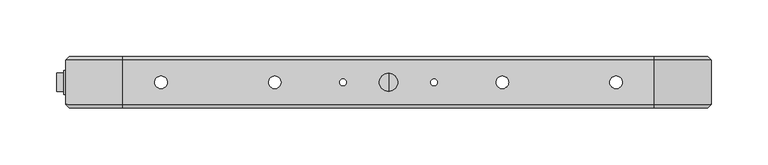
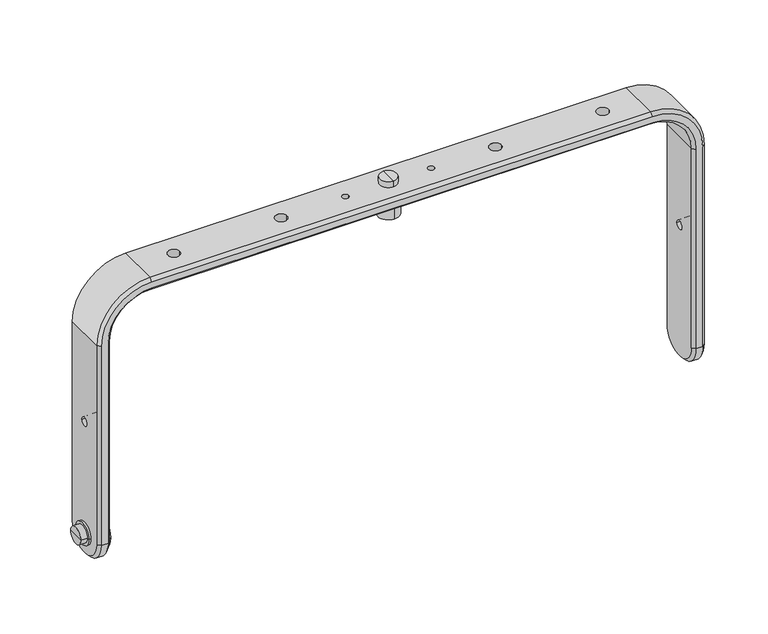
"""IFC4 building model written with IfcOpenShell, lengths in millimetres: proxy geometry, ePS10-WM330-HBRK535-WHM : ePS10-WM330-HBRK535-WHM."""

from ifc_helpers import new_model, si_unit, point, frame, origin, place, context, project, spatial, polyline, circle_curve, ellipse_curve, trimmed, source, transform, mapped, element, save
from ifc_brep_helpers import plane_surface, cylinder_surface, revolved_surface, advanced_brep


def generic_models_aa8a75bb(model_context):
    return source(origin(), model_context, "Body", "AdvancedBrep", [
        advanced_brep(
        [(-271.5, -306.057585, -246.5012591), (-271.5, -342.942415, -246.5012591), (-271.5, -328.5553577, -246.5012591), (-271.5, -320.4446423, -246.5012591), (-268.5, -309.057585, -246.5012591), (-268.5, -339.942415, -246.5012591), (-268.5, -320.4446423, -246.5012591), (-268.5, -328.5553577, -246.5012591), (-265.5, -320.4446423, -246.5012591), (-265.5, -328.5553577, -246.5012591), (-265.5, -324.5, -246.5012591), (-291.5, -316.4249697, -246.5012591), (-291.5, -332.5750303, -246.5012591), (-291.5, -324.5, -246.5012591), (-285.5, -316.4249697, -246.5012591), (-285.5, -332.5750303, -246.5012591), (-285.5, -313.944078, -246.5012591), (-285.5, -335.055922, -246.5012591), (-283.5, -313.944078, -246.5012591), (-283.5, -335.055922, -246.5012591), (-283.5, -320.4446423, -246.5012591), (-283.5, -328.5553577, -246.5012591)],
        [
            (0, 1, circle_curve(frame((-271.5, -324.5, -246.5012591), z_axis=(-1.0, 0.0, 0.0), x_axis=(0.0, -1.0, 0.0)), 18.442415)),
            (1, 2),
            (2, 3, circle_curve(frame((-271.5, -324.5, -246.5012591), z_axis=(1.0, 0.0, 0.0), x_axis=(0.0, -1.0, 0.0)), 4.0553577)),
            (3, 0),
            (1, 0, circle_curve(frame((-271.5, -324.5, -246.5012591), z_axis=(-1.0, 0.0, 0.0), x_axis=(0.0, -1.0, 0.0)), 18.442415)),
            (3, 2, circle_curve(frame((-271.5, -324.5, -246.5012591), z_axis=(1.0, 0.0, 0.0), x_axis=(0.0, -1.0, 0.0)), 4.0553577)),
            (4, 5, circle_curve(frame((-268.5, -324.5, -246.5012591), z_axis=(-1.0, 0.0, 0.0), x_axis=(0.0, -1.0, 0.0)), 15.442415)),
            (5, 1, circle_curve(frame((-271.5, -339.942415, -246.5012591), z_axis=(0.0, 0.0, -1.0), x_axis=(1.0, 0.0, 0.0)), 3.0)),
            (0, 4, circle_curve(frame((-271.5, -309.057585, -246.5012591), z_axis=(0.0, 0.0, -1.0), x_axis=(1.0, 0.0, 0.0)), 3.0)),
            (5, 4, circle_curve(frame((-268.5, -324.5, -246.5012591), z_axis=(-1.0, 0.0, 0.0), x_axis=(0.0, -1.0, 0.0)), 15.442415)),
            (6, 7, circle_curve(frame((-268.5, -324.5, -246.5012591), z_axis=(-1.0, 0.0, 0.0), x_axis=(0.0, -1.0, 0.0)), 4.0553577)),
            (7, 5),
            (4, 6),
            (7, 6, circle_curve(frame((-268.5, -324.5, -246.5012591), z_axis=(-1.0, 0.0, 0.0), x_axis=(0.0, -1.0, 0.0)), 4.0553577)),
            (8, 9, circle_curve(frame((-265.5, -324.5, -246.5012591), z_axis=(-1.0, 0.0, 0.0), x_axis=(0.0, -1.0, 0.0)), 4.0553577)),
            (9, 7),
            (6, 8),
            (9, 8, circle_curve(frame((-265.5, -324.5, -246.5012591), z_axis=(-1.0, 0.0, 0.0), x_axis=(0.0, -1.0, 0.0)), 4.0553577)),
            (10, 9),
            (8, 10),
            (11, 12, circle_curve(frame((-291.5, -324.5, -246.5012591), z_axis=(-1.0, 0.0, 0.0), x_axis=(0.0, -1.0, 0.0)), 8.0750303)),
            (12, 13),
            (13, 11),
            (12, 11, circle_curve(frame((-291.5, -324.5, -246.5012591), z_axis=(-1.0, 0.0, 0.0), x_axis=(0.0, -1.0, 0.0)), 8.0750303)),
            (14, 15, circle_curve(frame((-285.5, -324.5, -246.5012591), z_axis=(-1.0, 0.0, 0.0), x_axis=(0.0, -1.0, 0.0)), 8.0750303)),
            (15, 12),
            (11, 14),
            (15, 14, circle_curve(frame((-285.5, -324.5, -246.5012591), z_axis=(-1.0, 0.0, 0.0), x_axis=(0.0, -1.0, 0.0)), 8.0750303)),
            (16, 17, circle_curve(frame((-285.5, -324.5, -246.5012591), z_axis=(-1.0, 0.0, 0.0), x_axis=(0.0, -1.0, 0.0)), 10.555922)),
            (17, 15),
            (14, 16),
            (17, 16, circle_curve(frame((-285.5, -324.5, -246.5012591), z_axis=(-1.0, 0.0, 0.0), x_axis=(0.0, -1.0, 0.0)), 10.555922)),
            (18, 19, circle_curve(frame((-283.5, -324.5, -246.5012591), z_axis=(-1.0, 0.0, 0.0), x_axis=(0.0, -1.0, 0.0)), 10.555922)),
            (19, 17),
            (16, 18),
            (19, 18, circle_curve(frame((-283.5, -324.5, -246.5012591), z_axis=(-1.0, 0.0, 0.0), x_axis=(0.0, -1.0, 0.0)), 10.555922)),
            (20, 21, circle_curve(frame((-283.5, -324.5, -246.5012591), z_axis=(-1.0, 0.0, 0.0), x_axis=(0.0, -1.0, 0.0)), 4.0553577)),
            (21, 19),
            (18, 20),
            (21, 20, circle_curve(frame((-283.5, -324.5, -246.5012591), z_axis=(-1.0, 0.0, 0.0), x_axis=(0.0, -1.0, 0.0)), 4.0553577)),
            (2, 21),
            (20, 3),
        ],
        [
            plane_surface(frame((-271.5, -324.5, -246.5012591), z_axis=(-1.0, 0.0, 0.0), x_axis=(0.0, -1.0, 0.0))),
            revolved_surface(trimmed(ellipse_curve(frame((-271.5, -339.942415, -246.5012591), z_axis=(0.0, 0.0, 1.0), x_axis=(1.0, 0.0, 0.0)), 3.0, 3.0), [point((-271.5, -342.942415, -246.5012591))], [point((-268.5, -339.942415, -246.5012591))], True, "CARTESIAN"), (-258.7578639, -324.5, -246.5012591), (1.0, 0.0, 0.0)),
            plane_surface(frame((-268.5, -324.5, -246.5012591), z_axis=(1.0, 0.0, 0.0), x_axis=(0.0, -1.0, 0.0))),
            cylinder_surface(frame((-258.7578639, -324.5, -246.5012591), z_axis=(1.0, 0.0, 0.0), x_axis=(0.0, -1.0, 0.0)), 4.0553577),
            plane_surface(frame((-265.5, -324.5, -246.5012591), z_axis=(1.0, 0.0, 0.0), x_axis=(0.0, -1.0, 0.0))),
            plane_surface(frame((-291.5, -324.5, -246.5012591), z_axis=(-1.0, 0.0, 0.0), x_axis=(0.0, -1.0, 0.0))),
            cylinder_surface(frame((-258.7578639, -324.5, -246.5012591), z_axis=(1.0, 0.0, 0.0), x_axis=(0.0, -1.0, 0.0)), 8.0750303),
            plane_surface(frame((-285.5, -324.5, -246.5012591), z_axis=(-1.0, 0.0, 0.0), x_axis=(0.0, -1.0, 0.0))),
            cylinder_surface(frame((-258.7578639, -324.5, -246.5012591), z_axis=(1.0, 0.0, 0.0), x_axis=(0.0, -1.0, 0.0)), 10.555922),
            plane_surface(frame((-283.5, -324.5, -246.5012591), z_axis=(1.0, 0.0, 0.0), x_axis=(0.0, -1.0, 0.0))),
        ],
        [
            (0, [[1, 2, 3, 4]]),
            (0, [[5, -4, 6, -2]]),
            (1, [[7, 8, -1, 9]]),
            (1, [[10, -9, -5, -8]]),
            (2, [[11, 12, -7, 13]]),
            (2, [[14, -13, -10, -12]]),
            (3, [[15, 16, -11, 17]]),
            (3, [[18, -17, -14, -16]]),
            (4, [[19, -15, 20]]),
            (4, [[-20, -18, -19]]),
            (5, [[21, 22, 23]]),
            (5, [[24, -23, -22]]),
            (6, [[25, 26, -21, 27]]),
            (6, [[28, -27, -24, -26]]),
            (7, [[29, 30, -25, 31]]),
            (7, [[32, -31, -28, -30]]),
            (8, [[33, 34, -29, 35]]),
            (8, [[36, -35, -32, -34]]),
            (9, [[37, 38, -33, 39]]),
            (9, [[40, -39, -36, -38]]),
            (3, [[-3, 41, -37, 42]]),
            (3, [[-6, -42, -40, -41]]),
        ],
    ),
        advanced_brep(
        [(283.5, -304.9281655, -246.5012591), (283.5, -304.9281655, -50.0), (283.5, -344.0718345, -50.0), (283.5, -344.0718345, -246.5012591), (283.5, -320.5, -137.0012591), (283.5, -328.5, -137.0012591), (280.5, -347.0718345, -50.0), (280.5, -347.0718345, -246.5012591), (233.5, -347.0718345, -3.0), (-233.5, -347.0718345, -3.0), (-280.5, -347.0718345, -50.0), (-280.5, -347.0718345, -246.5012591), (-274.5, -347.0718345, -246.5012591), (-274.5, -347.0718345, -50.0), (-233.5, -347.0718345, -9.0), (233.5, -347.0718345, -9.0), (274.5, -347.0718345, -50.0), (274.5, -347.0718345, -246.5012591), (271.5, -344.0718345, -50.0), (271.5, -344.0718345, -246.5012591), (271.5, -304.9281655, -50.0), (271.5, -304.9281655, -246.5012591), (271.5, -328.5, -137.0012591), (271.5, -320.5, -137.0012591), (233.5, -304.9281655, 0.0), (233.5, -344.0718345, 0.0), (233.5, -344.0718345, -12.0), (233.5, -304.9281655, -12.0), (-233.5, -304.9281655, 0.0), (-233.5, -344.0718345, 0.0), (5.5, -324.5, 0.0), (-5.5, -324.5, 0.0), (-194.5, -324.5, 0.0), (-205.5, -324.5, 0.0), (-37.0, -324.5, 0.0), (-43.0, -324.5, 0.0), (-94.5, -324.5, 0.0), (-105.5, -324.5, 0.0), (194.5, -324.5, 0.0), (205.5, -324.5, 0.0), (37.0, -324.5, 0.0), (43.0, -324.5, 0.0), (94.5, -324.5, 0.0), (105.5, -324.5, 0.0), (-233.5, -344.0718345, -12.0), (-233.5, -304.9281655, -12.0), (-5.5, -324.5, -12.0), (5.5, -324.5, -12.0), (-205.5, -324.5, -12.0), (-194.5, -324.5, -12.0), (-43.0, -324.5, -12.0), (-37.0, -324.5, -12.0), (-105.5, -324.5, -12.0), (-94.5, -324.5, -12.0), (205.5, -324.5, -12.0), (194.5, -324.5, -12.0), (43.0, -324.5, -12.0), (37.0, -324.5, -12.0), (105.5, -324.5, -12.0), (94.5, -324.5, -12.0), (-283.5, -304.9281655, -50.0), (-283.5, -344.0718345, -50.0), (-271.5, -344.0718345, -50.0), (-271.5, -304.9281655, -50.0), (-283.5, -304.9281655, -246.5012591), (-283.5, -344.0718345, -246.5012591), (-283.5, -328.5, -137.0012591), (-283.5, -320.5, -137.0012591), (-271.5, -344.0718345, -246.5012591), (-271.5, -304.9281655, -246.5012591), (-271.5, -320.5, -137.0012591), (-271.5, -328.5, -137.0012591), (274.5, -301.9281655, -50.0), (274.5, -301.9281655, -246.5012591), (233.5, -301.9281655, -9.0), (-233.5, -301.9281655, -9.0), (-274.5, -301.9281655, -50.0), (-274.5, -301.9281655, -246.5012591), (-280.5, -301.9281655, -246.5012591), (-280.5, -301.9281655, -50.0), (-233.5, -301.9281655, -3.0), (233.5, -301.9281655, -3.0), (280.5, -301.9281655, -50.0), (280.5, -301.9281655, -246.5012591)],
        [
            (0, 1),
            (1, 2),
            (2, 3),
            (3, 0, circle_curve(frame((283.5, -324.5, -246.5012591), z_axis=(1.0, 0.0, 0.0), x_axis=(0.0, -1.0, 0.0)), 19.5718345)),
            (4, 5, circle_curve(frame((283.5, -324.5, -137.0012591), z_axis=(-1.0, 0.0, 0.0), x_axis=(0.0, 1.0, 0.0)), 4.0)),
            (5, 4, circle_curve(frame((283.5, -324.5, -137.0012591), z_axis=(-1.0, 0.0, 0.0), x_axis=(0.0, 1.0, 0.0)), 4.0)),
            (2, 6),
            (6, 7),
            (7, 3),
            (6, 8, circle_curve(frame((233.5, -347.0718345, -50.0), z_axis=(0.0, -1.0, 0.0), x_axis=(1.0, 0.0, 0.0)), 47.0)),
            (8, 9),
            (9, 10, circle_curve(frame((-233.5, -347.0718345, -50.0), z_axis=(0.0, -1.0, 0.0), x_axis=(0.0, 0.0, 1.0)), 47.0)),
            (10, 11),
            (11, 12),
            (12, 13),
            (13, 14, circle_curve(frame((-233.5, -347.0718345, -50.0), z_axis=(0.0, 1.0, 0.0), x_axis=(0.0, 0.0, 1.0)), 41.0)),
            (14, 15),
            (15, 16, circle_curve(frame((233.5, -347.0718345, -50.0), z_axis=(0.0, 1.0, 0.0), x_axis=(1.0, 0.0, 0.0)), 41.0)),
            (16, 17),
            (17, 7),
            (16, 18),
            (18, 19),
            (19, 17),
            (18, 20),
            (20, 21),
            (21, 19, circle_curve(frame((271.5, -324.5, -246.5012591), z_axis=(-1.0, 0.0, 0.0), x_axis=(0.0, -1.0, 0.0)), 19.5718345)),
            (22, 23, circle_curve(frame((271.5, -324.5, -137.0012591), z_axis=(1.0, 0.0, 0.0), x_axis=(0.0, 1.0, 0.0)), 4.0)),
            (23, 22, circle_curve(frame((271.5, -324.5, -137.0012591), z_axis=(1.0, 0.0, 0.0), x_axis=(0.0, 1.0, 0.0)), 4.0)),
            (1, 24, circle_curve(frame((233.5, -304.9281655, -50.0), z_axis=(0.0, -1.0, 0.0), x_axis=(1.0, 0.0, 0.0)), 50.0)),
            (24, 25),
            (25, 2, circle_curve(frame((233.5, -344.0718345, -50.0), z_axis=(0.0, 1.0, 0.0), x_axis=(1.0, 0.0, 0.0)), 50.0)),
            (25, 8),
            (15, 26),
            (26, 18, circle_curve(frame((233.5, -344.0718345, -50.0), z_axis=(0.0, 1.0, 0.0), x_axis=(1.0, 0.0, 0.0)), 38.0)),
            (26, 27),
            (27, 20, circle_curve(frame((233.5, -304.9281655, -50.0), z_axis=(0.0, 1.0, 0.0), x_axis=(1.0, 0.0, 0.0)), 38.0)),
            (24, 28),
            (28, 29),
            (29, 25),
            (30, 31, circle_curve(frame((0.0, -324.5, 0.0), z_axis=(0.0, 0.0, -1.0), x_axis=(1.0, 0.0, 0.0)), 5.5)),
            (31, 30, circle_curve(frame((0.0, -324.5, 0.0), z_axis=(0.0, 0.0, -1.0), x_axis=(1.0, 0.0, 0.0)), 5.5)),
            (32, 33, circle_curve(frame((-200.0, -324.5, 0.0), z_axis=(0.0, 0.0, -1.0), x_axis=(1.0, 0.0, 0.0)), 5.5)),
            (33, 32, circle_curve(frame((-200.0, -324.5, 0.0), z_axis=(0.0, 0.0, -1.0), x_axis=(1.0, 0.0, 0.0)), 5.5)),
            (34, 35, circle_curve(frame((-40.0, -324.5, 0.0), z_axis=(0.0, 0.0, -1.0), x_axis=(1.0, 0.0, 0.0)), 3.0)),
            (35, 34, circle_curve(frame((-40.0, -324.5, 0.0), z_axis=(0.0, 0.0, -1.0), x_axis=(1.0, 0.0, 0.0)), 3.0)),
            (36, 37, circle_curve(frame((-100.0, -324.5, 0.0), z_axis=(0.0, 0.0, -1.0), x_axis=(1.0, 0.0, 0.0)), 5.5)),
            (37, 36, circle_curve(frame((-100.0, -324.5, 0.0), z_axis=(0.0, 0.0, -1.0), x_axis=(1.0, 0.0, 0.0)), 5.5)),
            (38, 39, circle_curve(frame((200.0, -324.5, 0.0), z_axis=(0.0, 0.0, -1.0), x_axis=(-1.0, 0.0, 0.0)), 5.5)),
            (39, 38, circle_curve(frame((200.0, -324.5, 0.0), z_axis=(0.0, 0.0, -1.0), x_axis=(-1.0, 0.0, 0.0)), 5.5)),
            (40, 41, circle_curve(frame((40.0, -324.5, 0.0), z_axis=(0.0, 0.0, -1.0), x_axis=(-1.0, 0.0, 0.0)), 3.0)),
            (41, 40, circle_curve(frame((40.0, -324.5, 0.0), z_axis=(0.0, 0.0, -1.0), x_axis=(-1.0, 0.0, 0.0)), 3.0)),
            (42, 43, circle_curve(frame((100.0, -324.5, 0.0), z_axis=(0.0, 0.0, -1.0), x_axis=(-1.0, 0.0, 0.0)), 5.5)),
            (43, 42, circle_curve(frame((100.0, -324.5, 0.0), z_axis=(0.0, 0.0, -1.0), x_axis=(-1.0, 0.0, 0.0)), 5.5)),
            (29, 9),
            (14, 44),
            (44, 26),
            (44, 45),
            (45, 27),
            (46, 47, circle_curve(frame((0.0, -324.5, -12.0), z_axis=(0.0, 0.0, 1.0), x_axis=(1.0, 0.0, 0.0)), 5.5)),
            (47, 46, circle_curve(frame((0.0, -324.5, -12.0), z_axis=(0.0, 0.0, 1.0), x_axis=(1.0, 0.0, 0.0)), 5.5)),
            (48, 49, circle_curve(frame((-200.0, -324.5, -12.0), z_axis=(0.0, 0.0, 1.0), x_axis=(1.0, 0.0, 0.0)), 5.5)),
            (49, 48, circle_curve(frame((-200.0, -324.5, -12.0), z_axis=(0.0, 0.0, 1.0), x_axis=(1.0, 0.0, 0.0)), 5.5)),
            (50, 51, circle_curve(frame((-40.0, -324.5, -12.0), z_axis=(0.0, 0.0, 1.0), x_axis=(1.0, 0.0, 0.0)), 3.0)),
            (51, 50, circle_curve(frame((-40.0, -324.5, -12.0), z_axis=(0.0, 0.0, 1.0), x_axis=(1.0, 0.0, 0.0)), 3.0)),
            (52, 53, circle_curve(frame((-100.0, -324.5, -12.0), z_axis=(0.0, 0.0, 1.0), x_axis=(1.0, 0.0, 0.0)), 5.5)),
            (53, 52, circle_curve(frame((-100.0, -324.5, -12.0), z_axis=(0.0, 0.0, 1.0), x_axis=(1.0, 0.0, 0.0)), 5.5)),
            (54, 55, circle_curve(frame((200.0, -324.5, -12.0), z_axis=(0.0, 0.0, 1.0), x_axis=(-1.0, 0.0, 0.0)), 5.5)),
            (55, 54, circle_curve(frame((200.0, -324.5, -12.0), z_axis=(0.0, 0.0, 1.0), x_axis=(-1.0, 0.0, 0.0)), 5.5)),
            (56, 57, circle_curve(frame((40.0, -324.5, -12.0), z_axis=(0.0, 0.0, 1.0), x_axis=(-1.0, 0.0, 0.0)), 3.0)),
            (57, 56, circle_curve(frame((40.0, -324.5, -12.0), z_axis=(0.0, 0.0, 1.0), x_axis=(-1.0, 0.0, 0.0)), 3.0)),
            (58, 59, circle_curve(frame((100.0, -324.5, -12.0), z_axis=(0.0, 0.0, 1.0), x_axis=(-1.0, 0.0, 0.0)), 5.5)),
            (59, 58, circle_curve(frame((100.0, -324.5, -12.0), z_axis=(0.0, 0.0, 1.0), x_axis=(-1.0, 0.0, 0.0)), 5.5)),
            (28, 60, circle_curve(frame((-233.5, -304.9281655, -50.0), z_axis=(0.0, -1.0, 0.0), x_axis=(0.0, 0.0, 1.0)), 50.0)),
            (60, 61),
            (61, 29, circle_curve(frame((-233.5, -344.0718345, -50.0), z_axis=(0.0, 1.0, 0.0), x_axis=(0.0, 0.0, 1.0)), 50.0)),
            (61, 10),
            (13, 62),
            (62, 44, circle_curve(frame((-233.5, -344.0718345, -50.0), z_axis=(0.0, 1.0, 0.0), x_axis=(0.0, 0.0, 1.0)), 38.0)),
            (62, 63),
            (63, 45, circle_curve(frame((-233.5, -304.9281655, -50.0), z_axis=(0.0, 1.0, 0.0), x_axis=(0.0, 0.0, 1.0)), 38.0)),
            (60, 64),
            (64, 65, circle_curve(frame((-283.5, -324.5, -246.5012591), z_axis=(-1.0, 0.0, 0.0), x_axis=(0.0, -1.0, 0.0)), 19.5718345)),
            (65, 61),
            (66, 67, circle_curve(frame((-283.5, -324.5, -137.0012591), z_axis=(1.0, 0.0, 0.0), x_axis=(0.0, 1.0, 0.0)), 4.0)),
            (67, 66, circle_curve(frame((-283.5, -324.5, -137.0012591), z_axis=(1.0, 0.0, 0.0), x_axis=(0.0, 1.0, 0.0)), 4.0)),
            (65, 11),
            (12, 68),
            (68, 62),
            (68, 69, circle_curve(frame((-271.5, -324.5, -246.5012591), z_axis=(1.0, 0.0, 0.0), x_axis=(0.0, -1.0, 0.0)), 19.5718345)),
            (69, 63),
            (70, 71, circle_curve(frame((-271.5, -324.5, -137.0012591), z_axis=(-1.0, 0.0, 0.0), x_axis=(0.0, 1.0, 0.0)), 4.0)),
            (71, 70, circle_curve(frame((-271.5, -324.5, -137.0012591), z_axis=(-1.0, 0.0, 0.0), x_axis=(0.0, 1.0, 0.0)), 4.0)),
            (20, 72),
            (72, 73),
            (73, 21),
            (72, 74, circle_curve(frame((233.5, -301.9281655, -50.0), z_axis=(0.0, -1.0, 0.0), x_axis=(1.0, 0.0, 0.0)), 41.0)),
            (74, 75),
            (75, 76, circle_curve(frame((-233.5, -301.9281655, -50.0), z_axis=(0.0, -1.0, 0.0), x_axis=(0.0, 0.0, 1.0)), 41.0)),
            (76, 77),
            (77, 78),
            (78, 79),
            (79, 80, circle_curve(frame((-233.5, -301.9281655, -50.0), z_axis=(0.0, 1.0, 0.0), x_axis=(0.0, 0.0, 1.0)), 47.0)),
            (80, 81),
            (81, 82, circle_curve(frame((233.5, -301.9281655, -50.0), z_axis=(0.0, 1.0, 0.0), x_axis=(1.0, 0.0, 0.0)), 47.0)),
            (82, 83),
            (83, 73),
            (0, 83),
            (82, 1),
            (27, 74),
            (81, 24),
            (45, 75),
            (80, 28),
            (63, 76),
            (79, 60),
            (69, 77),
            (78, 64),
            (77, 12, circle_curve(frame((-274.5, -324.5, -246.5012591), z_axis=(-1.0, 0.0, 0.0), x_axis=(0.0, -1.0, 0.0)), 22.5718345)),
            (11, 78, circle_curve(frame((-280.5, -324.5, -246.5012591), z_axis=(1.0, 0.0, 0.0), x_axis=(0.0, -1.0, 0.0)), 22.5718345)),
            (83, 7, circle_curve(frame((280.5, -324.5, -246.5012591), z_axis=(-1.0, 0.0, 0.0), x_axis=(0.0, -1.0, 0.0)), 22.5718345)),
            (17, 73, circle_curve(frame((274.5, -324.5, -246.5012591), z_axis=(1.0, 0.0, 0.0), x_axis=(0.0, -1.0, 0.0)), 22.5718345)),
            (46, 31),
            (30, 47),
            (48, 33),
            (32, 49),
            (50, 35),
            (34, 51),
            (22, 5),
            (4, 23),
            (66, 71),
            (70, 67),
            (52, 37),
            (36, 53),
            (54, 39),
            (38, 55),
            (56, 41),
            (40, 57),
            (58, 43),
            (42, 59),
        ],
        [
            plane_surface(frame((283.5, -304.9281655, -246.5012591), z_axis=(1.0, 0.0, 0.0), x_axis=(0.0, 0.0, 1.0))),
            plane_surface(frame((283.5, -344.0718345, -246.5012591), z_axis=(0.7071067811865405, -0.7071067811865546, 0.0), x_axis=(0.0, 0.0, 1.0))),
            plane_surface(frame((280.5, -347.0718345, -246.5012591), z_axis=(0.0, -1.0, 0.0), x_axis=(0.0, 0.0, 1.0))),
            plane_surface(frame((274.5, -347.0718345, -246.5012591), z_axis=(-0.7071067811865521, -0.7071067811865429, 0.0), x_axis=(0.0, 0.0, 1.0))),
            plane_surface(frame((271.5, -344.0718345, -246.5012591), z_axis=(-1.0, 0.0, 0.0), x_axis=(0.0, 0.0, 1.0))),
            cylinder_surface(frame((233.5, -324.5, -50.0), z_axis=(0.0, -1.0, 0.0), x_axis=(1.0, 0.0, 0.0)), 50.0),
            revolved_surface(polyline([(283.5, -344.0718345, -50.0), (280.5, -347.0718345, -50.0)]), (233.5, -324.5, -50.0), (0.0, -1.0, 0.0)),
            revolved_surface(polyline([(274.5, -347.0718345, -50.0), (271.5, -344.0718345, -50.0)]), (233.5, -324.5, -50.0), (0.0, -1.0, 0.0)),
            revolved_surface(polyline([(271.5, -344.0718345, -50.0), (271.5, -304.9281655, -50.0)]), (233.5, -324.5, -50.0), (0.0, -1.0, 0.0)),
            plane_surface(frame((233.5, -304.9281655, 0.0), z_axis=(0.0, 0.0, 1.0), x_axis=(-1.0, 0.0, 0.0))),
            plane_surface(frame((233.5, -344.0718345, 0.0), z_axis=(0.0, -0.7071067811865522, 0.7071067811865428), x_axis=(-1.0, 0.0, 0.0))),
            plane_surface(frame((233.5, -347.0718345, -9.0), z_axis=(0.0, -0.7071067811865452, -0.7071067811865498), x_axis=(-1.0, 0.0, 0.0))),
            plane_surface(frame((233.5, -344.0718345, -12.0), z_axis=(0.0, 0.0, -1.0), x_axis=(-1.0, 0.0, 0.0))),
            cylinder_surface(frame((-233.5, -324.5, -50.0), z_axis=(0.0, -1.0, 0.0), x_axis=(0.0, 0.0, 1.0)), 50.0),
            revolved_surface(polyline([(-233.5, -344.0718345, 0.0), (-233.5, -347.0718345, -3.0)]), (-233.5, -324.5, -50.0), (0.0, -1.0, 0.0)),
            revolved_surface(polyline([(-233.5, -347.0718345, -9.0), (-233.5, -344.0718345, -12.0)]), (-233.5, -324.5, -50.0), (0.0, -1.0, 0.0)),
            revolved_surface(polyline([(-233.5, -344.0718345, -12.0), (-233.5, -304.9281655, -12.0)]), (-233.5, -324.5, -50.0), (0.0, -1.0, 0.0)),
            plane_surface(frame((-283.5, -304.9281655, -50.0), z_axis=(-1.0, 0.0, 0.0), x_axis=(0.0, 0.0, -1.0))),
            plane_surface(frame((-283.5, -344.0718345, -50.0), z_axis=(-0.7071067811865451, -0.7071067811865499, 0.0), x_axis=(0.0, 0.0, -1.0))),
            plane_surface(frame((-274.5, -347.0718345, -50.0), z_axis=(0.7071067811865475, -0.7071067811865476, 0.0), x_axis=(0.0, 0.0, -1.0))),
            plane_surface(frame((-271.5, -344.0718345, -50.0), z_axis=(1.0, 0.0, 0.0), x_axis=(0.0, 0.0, -1.0))),
            plane_surface(frame((271.5, -304.9281655, -246.5012591), z_axis=(-0.7071067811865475, 0.7071067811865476, 0.0), x_axis=(0.0, 0.0, 1.0))),
            plane_surface(frame((274.5, -301.9281655, -246.5012591), z_axis=(0.0, 1.0, 0.0), x_axis=(0.0, 0.0, 1.0))),
            plane_surface(frame((280.5, -301.9281655, -246.5012591), z_axis=(0.7071067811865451, 0.7071067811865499, 0.0), x_axis=(0.0, 0.0, 1.0))),
            revolved_surface(polyline([(271.5, -304.9281655, -50.0), (274.5, -301.9281655, -50.0)]), (233.5, -324.5, -50.0), (0.0, -1.0, 0.0)),
            revolved_surface(polyline([(280.5, -301.9281655, -50.0), (283.5, -304.9281655, -50.0)]), (233.5, -324.5, -50.0), (0.0, -1.0, 0.0)),
            plane_surface(frame((233.5, -304.9281655, -12.0), z_axis=(0.0, 0.7071067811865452, -0.7071067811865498), x_axis=(-1.0, 0.0, 0.0))),
            plane_surface(frame((233.5, -301.9281655, -3.0), z_axis=(0.0, 0.7071067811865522, 0.7071067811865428), x_axis=(-1.0, 0.0, 0.0))),
            revolved_surface(polyline([(-233.5, -304.9281655, -12.0), (-233.5, -301.9281655, -9.0)]), (-233.5, -324.5, -50.0), (0.0, -1.0, 0.0)),
            revolved_surface(polyline([(-233.5, -301.9281655, -3.0), (-233.5, -304.9281655, 0.0)]), (-233.5, -324.5, -50.0), (0.0, -1.0, 0.0)),
            plane_surface(frame((-271.5, -304.9281655, -50.0), z_axis=(0.7071067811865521, 0.7071067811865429, 0.0), x_axis=(0.0, 0.0, -1.0))),
            plane_surface(frame((-280.5, -301.9281655, -50.0), z_axis=(-0.7071067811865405, 0.7071067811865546, 0.0), x_axis=(0.0, 0.0, -1.0))),
            cylinder_surface(frame((1916.0, -324.5, -246.5012591), z_axis=(1.0, 0.0, 0.0), x_axis=(0.0, -1.0, 0.0)), 22.5718345),
            revolved_surface(polyline([(-274.5, -347.0718345, -246.5012591), (-271.5, -344.0718345, -246.5012591)]), (1916.0, -324.5, -246.5012591), (1.0, 0.0, 0.0)),
            revolved_surface(polyline([(-283.5, -344.0718345, -246.5012591), (-280.5, -347.0718345, -246.5012591)]), (1916.0, -324.5, -246.5012591), (1.0, 0.0, 0.0)),
            cylinder_surface(frame((-1916.0, -324.5, -246.5012591), z_axis=(1.0, 0.0, 0.0), x_axis=(0.0, -1.0, 0.0)), 22.5718345),
            revolved_surface(polyline([(271.5, -344.0718345, -246.5012591), (274.5, -347.0718345, -246.5012591)]), (-1916.0, -324.5, -246.5012591), (1.0, 0.0, 0.0)),
            revolved_surface(polyline([(280.5, -347.0718345, -246.5012591), (283.5, -344.0718345, -246.5012591)]), (-1916.0, -324.5, -246.5012591), (1.0, 0.0, 0.0)),
            revolved_surface(polyline([(5.5, -324.5, 0.0), (5.5, -324.5, -12.0)]), (0.0, -324.5, -20.0), (0.0, 0.0, 1.0)),
            revolved_surface(polyline([(-194.5, -324.5, 0.0), (-194.5, -324.5, -12.0)]), (-200.0, -324.5, 0.0), (0.0, 0.0, 1.0)),
            revolved_surface(polyline([(-37.0, -324.5, 0.0), (-37.0, -324.5, -12.0)]), (-40.0, -324.5, 0.0), (0.0, 0.0, 1.0)),
            revolved_surface(polyline([(283.5, -320.5, -137.0012591), (271.5, -320.5, -137.0012591)]), (-290.0, -324.5, -137.0012591), (1.0, 0.0, 0.0)),
            revolved_surface(polyline([(-271.5, -320.5, -137.0012591), (-283.5, -320.5, -137.0012591)]), (-290.0, -324.5, -137.0012591), (1.0, 0.0, 0.0)),
            revolved_surface(polyline([(-94.5, -324.5, 0.0), (-94.5, -324.5, -12.0)]), (-100.0, -324.5, 0.0), (0.0, 0.0, 1.0)),
            revolved_surface(polyline([(194.5, -324.5, 0.0), (194.5, -324.5, -12.0)]), (200.0, -324.5, 0.0), (0.0, 0.0, 1.0)),
            revolved_surface(polyline([(37.0, -324.5, 0.0), (37.0, -324.5, -12.0)]), (40.0, -324.5, 0.0), (0.0, 0.0, 1.0)),
            revolved_surface(polyline([(94.5, -324.5, 0.0), (94.5, -324.5, -12.0)]), (100.0, -324.5, 0.0), (0.0, 0.0, 1.0)),
        ],
        [
            (0, [[1, 2, 3, 4], [5, 6]]),
            (1, [[-3, 7, 8, 9]]),
            (2, [[-8, 10, 11, 12, 13, 14, 15, 16, 17, 18, 19, 20]]),
            (3, [[-19, 21, 22, 23]]),
            (4, [[-22, 24, 25, 26], [27, 28]]),
            (5, [[-2, 29, 30, 31]]),
            (6, [[-7, -31, 32, -10]]),
            (7, [[-18, 33, 34, -21]]),
            (8, [[-24, -34, 35, 36]]),
            (9, [[-30, 37, 38, 39], [40, 41], [42, 43], [44, 45], [46, 47], [48, 49], [50, 51], [52, 53]]),
            (10, [[-11, -32, -39, 54]]),
            (11, [[-17, 55, 56, -33]]),
            (12, [[-35, -56, 57, 58], [59, 60], [61, 62], [63, 64], [65, 66], [67, 68], [69, 70], [71, 72]]),
            (13, [[-38, 73, 74, 75]]),
            (14, [[-12, -54, -75, 76]]),
            (15, [[-16, 77, 78, -55]]),
            (16, [[-57, -78, 79, 80]]),
            (17, [[-74, 81, 82, 83], [84, 85]]),
            (18, [[-13, -76, -83, 86]]),
            (19, [[-15, 87, 88, -77]]),
            (20, [[-79, -88, 89, 90], [91, 92]]),
            (21, [[-25, 93, 94, 95]]),
            (22, [[-94, 96, 97, 98, 99, 100, 101, 102, 103, 104, 105, 106]]),
            (23, [[-1, 107, -105, 108]]),
            (24, [[-36, 109, -96, -93]]),
            (25, [[-29, -108, -104, 110]]),
            (26, [[-58, 111, -97, -109]]),
            (27, [[-37, -110, -103, 112]]),
            (28, [[-80, 113, -98, -111]]),
            (29, [[-73, -112, -102, 114]]),
            (30, [[-90, 115, -99, -113]]),
            (31, [[-81, -114, -101, 116]]),
            (32, [[117, -14, 118, -100]]),
            (33, [[-117, -115, -89, -87]]),
            (34, [[-118, -86, -82, -116]]),
            (35, [[119, -20, 120, -106]]),
            (36, [[-120, -23, -26, -95]]),
            (37, [[-119, -107, -4, -9]]),
            (38, [[121, -40, 122, -59]]),
            (38, [[-121, -60, -122, -41]]),
            (39, [[123, -42, 124, -61]]),
            (39, [[-123, -62, -124, -43]]),
            (40, [[125, -44, 126, -63]]),
            (40, [[-125, -64, -126, -45]]),
            (41, [[127, -5, 128, -27]]),
            (42, [[129, -91, 130, -84]]),
            (41, [[-127, -28, -128, -6]]),
            (42, [[-129, -85, -130, -92]]),
            (43, [[131, -46, 132, -65]]),
            (43, [[-131, -66, -132, -47]]),
            (44, [[133, -48, 134, -67]]),
            (44, [[-133, -68, -134, -49]]),
            (45, [[135, -50, 136, -69]]),
            (45, [[-135, -70, -136, -51]]),
            (46, [[137, -52, 138, -71]]),
            (46, [[-137, -72, -138, -53]]),
        ],
    ),
        advanced_brep(
        [(0.0, -316.5, 0.0), (0.0, -332.5, 0.0), (0.0, -332.5, 6.0), (0.0, -316.5, 6.0), (0.0, -320.5, 0.0), (0.0, -328.5, 0.0), (0.0, -320.5, -12.0), (0.0, -328.5, -12.0), (0.0, -324.5, 6.0)],
        [
            (0, 1, circle_curve(frame((0.0, -324.5, 0.0), z_axis=(0.0, 0.0, 1.0), x_axis=(0.0, -1.0, 0.0)), 8.0)),
            (1, 2),
            (2, 3, circle_curve(frame((0.0, -324.5, 6.0), z_axis=(0.0, 0.0, -1.0), x_axis=(0.0, -1.0, 0.0)), 8.0)),
            (3, 0),
            (1, 0, circle_curve(frame((0.0, -324.5, 0.0), z_axis=(0.0, 0.0, 1.0), x_axis=(0.0, -1.0, 0.0)), 8.0)),
            (3, 2, circle_curve(frame((0.0, -324.5, 6.0), z_axis=(0.0, 0.0, -1.0), x_axis=(0.0, -1.0, 0.0)), 8.0)),
            (0, 4),
            (4, 5, circle_curve(frame((0.0, -324.5, 0.0), z_axis=(0.0, 0.0, 1.0), x_axis=(0.0, -1.0, 0.0)), 4.0)),
            (5, 1),
            (5, 4, circle_curve(frame((0.0, -324.5, 0.0), z_axis=(0.0, 0.0, 1.0), x_axis=(0.0, -1.0, 0.0)), 4.0)),
            (4, 6),
            (6, 7, circle_curve(frame((0.0, -324.5, -12.0), z_axis=(0.0, 0.0, 1.0), x_axis=(0.0, -1.0, 0.0)), 4.0)),
            (7, 5),
            (7, 6, circle_curve(frame((0.0, -324.5, -12.0), z_axis=(0.0, 0.0, 1.0), x_axis=(0.0, -1.0, 0.0)), 4.0)),
            (2, 8),
            (8, 3),
        ],
        [
            cylinder_surface(frame((0.0, -324.5, 10.4453694), z_axis=(0.0, 0.0, -1.0), x_axis=(0.0, -1.0, 0.0)), 8.0),
            plane_surface(frame((0.0, -324.5, 0.0), z_axis=(0.0, 0.0, -1.0), x_axis=(0.0, -1.0, 0.0))),
            cylinder_surface(frame((0.0, -324.5, 10.4453694), z_axis=(0.0, 0.0, -1.0), x_axis=(0.0, -1.0, 0.0)), 4.0),
            plane_surface(frame((0.0, -324.5, 6.0), z_axis=(0.0, 0.0, 1.0), x_axis=(0.0, -1.0, 0.0))),
            plane_surface(frame((4.5, -324.5, -12.0), z_axis=(0.0, 0.0, -1.0), x_axis=(0.0, 1.0, 0.0))),
        ],
        [
            (0, [[1, 2, 3, 4]]),
            (0, [[-2, 5, -4, 6]]),
            (1, [[-1, 7, 8, 9]]),
            (1, [[-5, -9, 10, -7]]),
            (2, [[-8, 11, 12, 13]]),
            (2, [[-10, -13, 14, -11]]),
            (3, [[-3, 15, 16]]),
            (3, [[-6, -16, -15]]),
            (4, [[-12, -14]]),
        ],
    ),
        advanced_brep(
        [(0.0, -314.5, -16.0), (0.0, -334.5, -16.0), (0.0, -329.0, -16.0), (-4.5, -324.5, -16.0), (0.0, -320.0, -16.0), (4.5, -324.5, -16.0), (0.0, -314.5, -30.0), (0.0, -334.5, -30.0), (0.0, -324.5, -30.0), (-4.5, -324.5, -18.0), (4.5, -324.5, -18.0)],
        [
            (0, 1, circle_curve(frame((0.0, -324.5, -16.0), z_axis=(0.0, 0.0, 1.0), x_axis=(0.0, -1.0, 0.0)), 10.0)),
            (1, 2),
            (2, 3, circle_curve(frame((0.0, -324.5, -16.0), z_axis=(0.0, 0.0, -1.0), x_axis=(1.0, 0.0, 0.0)), 4.5)),
            (3, 4, circle_curve(frame((0.0, -324.5, -16.0), z_axis=(0.0, 0.0, -1.0), x_axis=(1.0, 0.0, 0.0)), 4.5)),
            (4, 0),
            (1, 0, circle_curve(frame((0.0, -324.5, -16.0), z_axis=(0.0, 0.0, 1.0), x_axis=(0.0, -1.0, 0.0)), 10.0)),
            (4, 5, circle_curve(frame((0.0, -324.5, -16.0), z_axis=(0.0, 0.0, -1.0), x_axis=(1.0, 0.0, 0.0)), 4.5)),
            (5, 2, circle_curve(frame((0.0, -324.5, -16.0), z_axis=(0.0, 0.0, -1.0), x_axis=(1.0, 0.0, 0.0)), 4.5)),
            (0, 6),
            (6, 7, circle_curve(frame((0.0, -324.5, -30.0), z_axis=(0.0, 0.0, 1.0), x_axis=(0.0, -1.0, 0.0)), 10.0)),
            (7, 1),
            (7, 6, circle_curve(frame((0.0, -324.5, -30.0), z_axis=(0.0, 0.0, 1.0), x_axis=(0.0, -1.0, 0.0)), 10.0)),
            (6, 8),
            (8, 7),
            (9, 10, circle_curve(frame((0.0, -324.5, -18.0), z_axis=(0.0, 0.0, 1.0), x_axis=(1.0, 0.0, 0.0)), 4.5)),
            (10, 9, circle_curve(frame((0.0, -324.5, -18.0), z_axis=(0.0, 0.0, 1.0), x_axis=(1.0, 0.0, 0.0)), 4.5)),
            (9, 3),
            (5, 10),
        ],
        [
            plane_surface(frame((0.0, -324.5, -16.0), z_axis=(0.0, 0.0, 1.0), x_axis=(0.0, -1.0, 0.0))),
            cylinder_surface(frame((0.0, -324.5, 10.4453694), z_axis=(0.0, 0.0, -1.0), x_axis=(0.0, -1.0, 0.0)), 10.0),
            plane_surface(frame((0.0, -324.5, -30.0), z_axis=(0.0, 0.0, -1.0), x_axis=(0.0, -1.0, 0.0))),
            plane_surface(frame((4.5, -324.5, -18.0), z_axis=(0.0, 0.0, 1.0), x_axis=(0.0, -1.0, 0.0))),
            revolved_surface(polyline([(4.5, -324.5, -16.0), (4.5, -324.5, -18.0)]), (0.0, -324.5, -18.0), (0.0, 0.0, 1.0)),
        ],
        [
            (0, [[1, 2, 3, 4, 5]]),
            (0, [[6, -5, 7, 8, -2]]),
            (1, [[-1, 9, 10, 11]]),
            (1, [[-6, -11, 12, -9]]),
            (2, [[-10, 13, 14]]),
            (2, [[-12, -14, -13]]),
            (3, [[15, 16]]),
            (4, [[-15, 17, -3, -8, 18]]),
            (4, [[-16, -18, -7, -4, -17]]),
        ],
    ),
    ])


if __name__ == "__main__":
    model = new_model("IFC4")
    model_context = context("Model", 3, world=origin())
    ifc_project = project(units=[si_unit("LENGTHUNIT", "METRE", prefix="MILLI")], contexts=[model_context])
    site = spatial("IfcSite", under=ifc_project)
    building = spatial("IfcBuilding", under=site)
    placement = place(None, origin())
    generic_models_shape = generic_models_aa8a75bb(model_context)
    element("IfcBuildingElementProxy", 1, Name="ePS10-WM330-HBRK535-WHM : ePS10-WM330-HBRK535-WHM", ObjectType="ePS10-WM330-HBRK535-WHM : ePS10-WM330-HBRK535-WHM", at=placement, inside=building, context=model_context, shape_type="MappedRepresentation", body=[
        mapped(generic_models_shape, transform((0.0, 0.0, 0.0), x_axis=(1.0, 0.0, 0.0), y_axis=(0.0, 1.0, 0.0), z_axis=(0.0, 0.0, 1.0))),
    ])
    save(model, "model.ifc")
